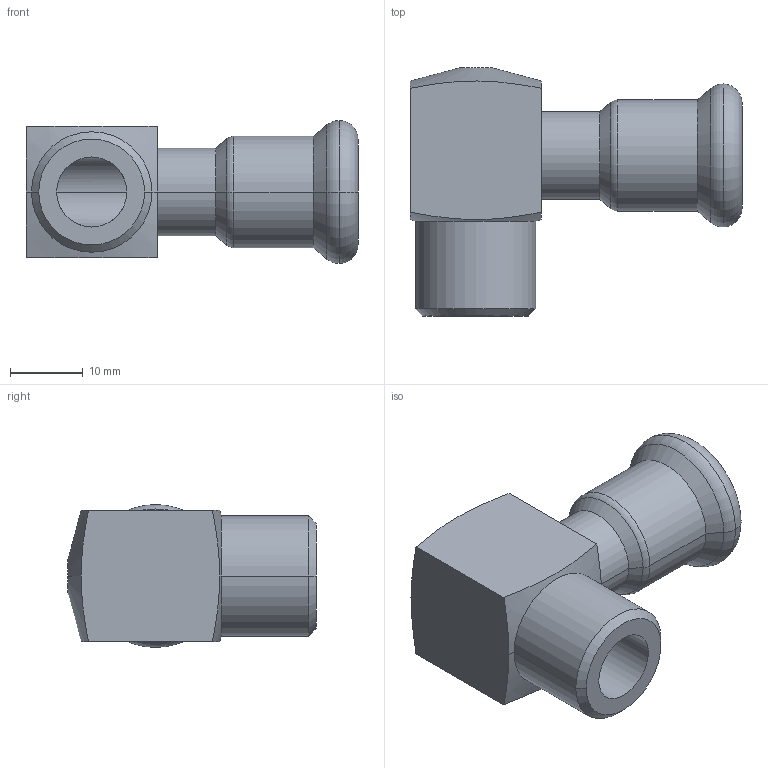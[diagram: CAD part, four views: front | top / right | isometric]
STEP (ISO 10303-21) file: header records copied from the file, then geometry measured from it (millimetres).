
FILE_DESCRIPTION(('CoCreate Modeling STEP Export'),'2;1');
FILE_NAME('C1428 12xR3-8.stp','2014-11-12T15:32:52',(''),(''),'CoCreate Modeling STEP processor for AP214 (Solid Model)','CoCreate Modeling 17.00A 17-Jun-2010 (C) Parametric Technology GmbH','');
FILE_SCHEMA(('AUTOMOTIVE_DESIGN { 1 0 10303 214 1 1 1 1 }'));
Length unit declared in the file: millimetre
Products named in the file (2): C1428_12xR3-8
Assembly tree (1 placements, depth 2):
  C1428_12xR3-8
    C1428_12xR3-8
Bounding box: 45.5 x 34 x 19.6 mm (x, y, z)
Volume: 8981.6 mm3; surface area: 5890.8 mm2
Topology: 1 solids, 1 shells, 39 faces, 87 edges, 53 vertices
Faces by surface type: cylinder 14, cone 10, plane 9, torus 6
Entity records: 1607 total; most frequent: CARTESIAN_POINT 815, ORIENTED_EDGE 174, DIRECTION 128, EDGE_CURVE 87, VERTEX_POINT 53, AXIS2_PLACEMENT_3D 50, EDGE_LOOP 44, FACE_OUTER_BOUND 39
